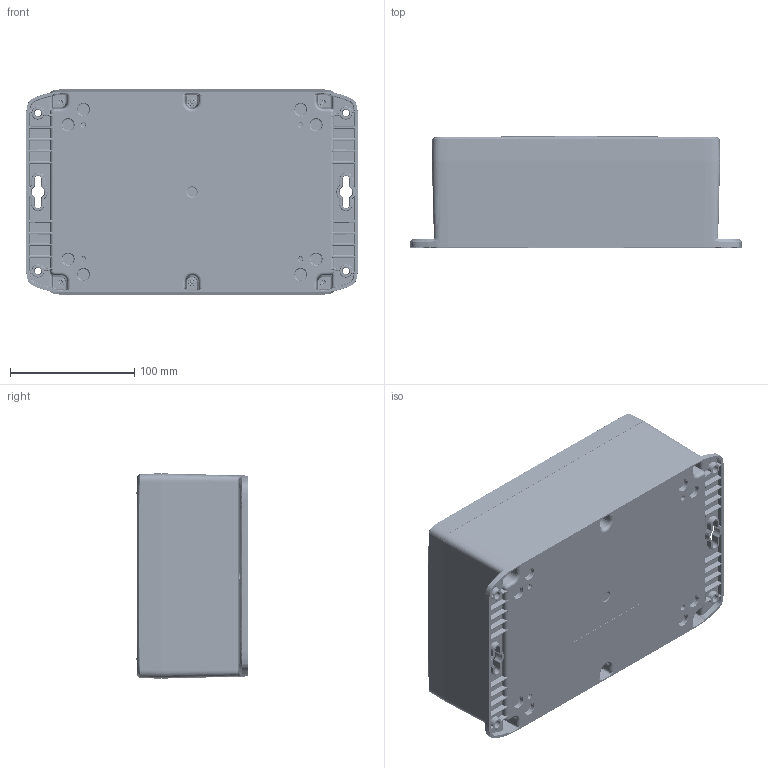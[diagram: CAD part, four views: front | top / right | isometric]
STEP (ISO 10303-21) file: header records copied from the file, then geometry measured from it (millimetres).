
FILE_DESCRIPTION (( 'STEP AP214' ), '1' );
FILE_NAME ('HN-69-03.STEP', '2026-09-24T18:07:05', ( '' ), ( '' ), 'SwSTEP 2.0', 'SolidWorks 2026', '' );
FILE_SCHEMA (( 'AUTOMOTIVE_DESIGN' ));
Length unit declared in the file: inch
Products named in the file (9): SCREWS-054_DEFAULT; HN-69BN_HN-69BFN-00; HN-69B_HN-69BF-00; HN-69CG_HN-69CG-00; HN-69C_HN-69C-00; HN-69-03; INSERTS-3_INSERTS-3; HN-69G_default; LABEL-100
Assembly tree (18 placements, depth 3):
  HN-69-03
    HN-69B_HN-69BF-00
      HN-69BN_HN-69BFN-00
      INSERTS-3_INSERTS-3  x6
      LABEL-100
    HN-69CG_HN-69CG-00
      HN-69C_HN-69C-00
      HN-69G_default
    SCREWS-054_DEFAULT  x6
Bounding box: 266.95 x 89.27 x 165.1 mm (x, y, z)
Volume: 548529.2 mm3; surface area: 349916 mm2
Topology: 16 solids, 16 shells, 5792 faces, 13842 edges, 8057 vertices
Faces by surface type: bspline 1382, torus 1212, cone 1096, cylinder 1040, plane 980, sphere 82
Full cylindrical faces by diameter (mm): 2.413 x6, 2.705 x6, 4.318 x6, 4.445 x24, 4.699 x12, 5.283 x12, 6.274 x6, 6.858 x6
Entity records: 202111 total; most frequent: CARTESIAN_POINT 94827, ORIENTED_EDGE 24264, DIRECTION 19575, EDGE_CURVE 12132, AXIS2_PLACEMENT_3D 8406, VERTEX_POINT 7271, EDGE_LOOP 5471, FACE_OUTER_BOUND 5226
